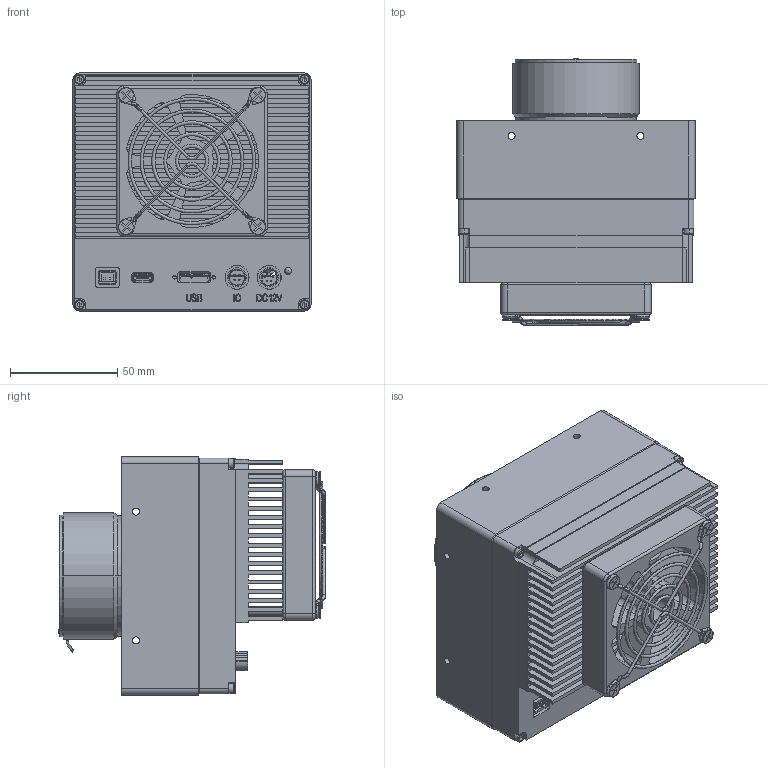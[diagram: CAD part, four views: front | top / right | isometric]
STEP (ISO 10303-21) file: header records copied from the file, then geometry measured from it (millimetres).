
FILE_DESCRIPTION (( 'STEP AP203' ), '1' );
FILE_NAME ('TTS65MU30-5M-A01-V1.1.0-外形尺寸图.STEP', '2022-12-05T12:58:08', ( '微软用户' ), ( '微软中国' ), 'SwSTEP 2.0', 'SolidWorks 2017', '' );
FILE_SCHEMA (( 'CONFIG_CONTROL_DESIGN' ));
Length unit declared in the file: millimetre
Products named in the file (1): TTS65MU30-5M-A01-V1.1.0-俋倛喜渡芞
Bounding box: 111 x 124.65 x 111 mm (x, y, z)
Surface area: 148504.9 mm2 (no closed solid volume)
Topology: 0 solids, 79 shells, 892 faces, 3229 edges, 2368 vertices
Faces by surface type: plane 422, cylinder 306, bspline 77, cone 60, torus 16, sphere 11
Entity records: 38158 total; most frequent: CARTESIAN_POINT 11279, DIRECTION 5579, ORIENTED_EDGE 4960, EDGE_CURVE 3198, VERTEX_POINT 2356, LINE 1939, VECTOR 1939, AXIS2_PLACEMENT_3D 1820
